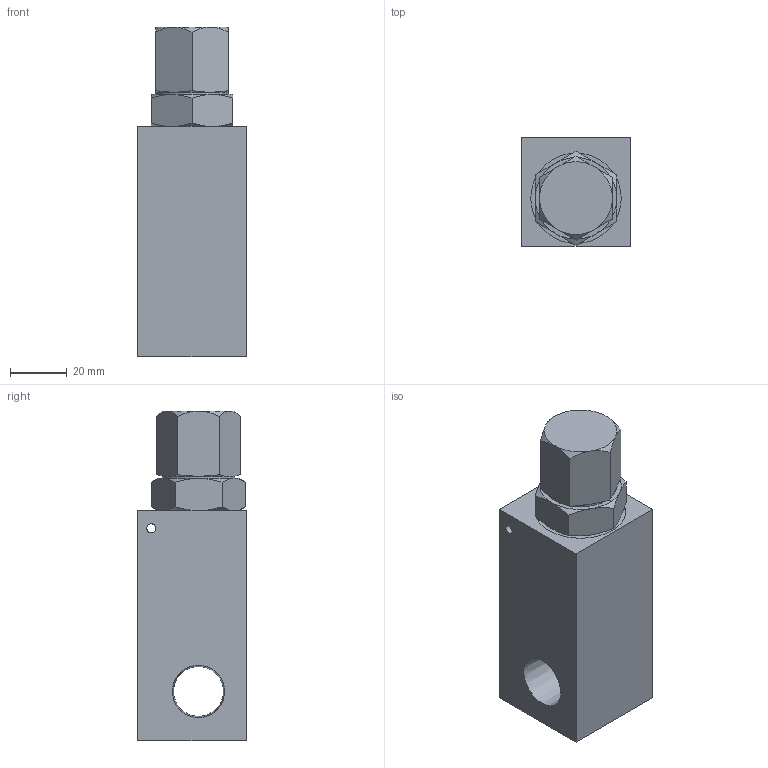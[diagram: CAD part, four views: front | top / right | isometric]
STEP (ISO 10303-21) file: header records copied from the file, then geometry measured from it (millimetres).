
FILE_DESCRIPTION((''),'2;1');
FILE_NAME('C:\Vault\Workspace\z_ShellModels\Misc_RD_RV\RD-1850H_Shell.stp','2012-03-19T11:41:28',('PetersW'),(''),'Autodesk Inventor 2012','Autodesk Inventor 2012','');
FILE_SCHEMA(('AUTOMOTIVE_DESIGN { 1 0 10303 214 1 1 1 1 }'));
Length unit declared in the file: inch
Products named in the file (1): Part3
Bounding box: 38.1 x 38.1 x 115.77 mm (x, y, z)
Volume: 124144.4 mm3; surface area: 21836.3 mm2
Topology: 1 solids, 1 shells, 56 faces, 130 edges, 80 vertices
Faces by surface type: cone 28, plane 22, cylinder 6
Full cylindrical faces by diameter (mm): 3.175 x1, 17.475 x2, 25.4 x2, 31.75 x1
Entity records: 1544 total; most frequent: CARTESIAN_POINT 345, ORIENTED_EDGE 232, DIRECTION 220, EDGE_CURVE 116, AXIS2_PLACEMENT_3D 95, VERTEX_POINT 76, EDGE_LOOP 74, STYLED_ITEM 57
